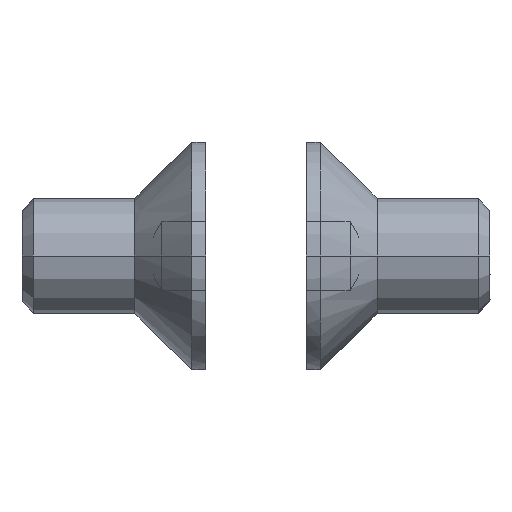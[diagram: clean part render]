
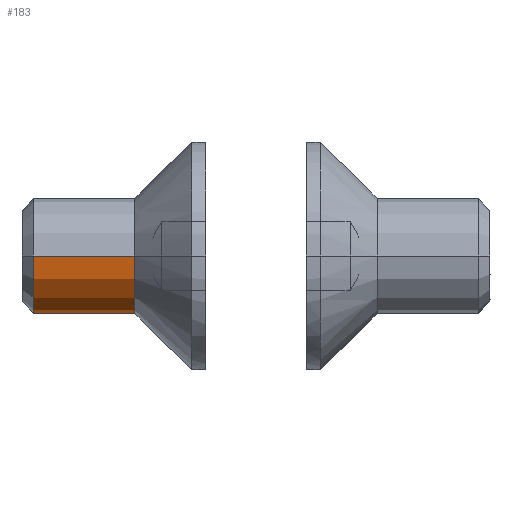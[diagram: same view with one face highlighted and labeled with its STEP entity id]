
A CAD part, left-side view. The second image highlights one B-rep face of the part: STEP entity #183.
In plain terms, the highlighted free-form (B-spline) face has degree [2, 1] with [9, 2] control points.
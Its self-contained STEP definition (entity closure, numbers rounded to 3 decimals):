
#183=ADVANCED_FACE('',(#351),#4985,.T.);
#351=FACE_OUTER_BOUND('',#521,.T.);
#521=EDGE_LOOP('',(#860,#861,#862,#863));
#860=ORIENTED_EDGE('',*,*,#3513,.T.);
#861=ORIENTED_EDGE('',*,*,#3514,.T.);
#862=ORIENTED_EDGE('',*,*,#3515,.T.);
#863=ORIENTED_EDGE('',*,*,#3511,.F.);
#1434=(
BOUNDED_CURVE()
B_SPLINE_CURVE(2,(#6743,#6744,#6745,#6746,#6747),.UNSPECIFIED.,.F.,.F.)
B_SPLINE_CURVE_WITH_KNOTS((3,2,3),(0.,3.927,7.854),
 .UNSPECIFIED.)
CURVE()
GEOMETRIC_REPRESENTATION_ITEM()
RATIONAL_B_SPLINE_CURVE((1.,0.707,1.,0.707,1.))
REPRESENTATION_ITEM('')
);
#1435=(
BOUNDED_CURVE()
B_SPLINE_CURVE(2,(#6760,#6761,#6762,#6763,#6764),.UNSPECIFIED.,.F.,.F.)
B_SPLINE_CURVE_WITH_KNOTS((3,2,3),(0.,3.927,7.854),
 .UNSPECIFIED.)
CURVE()
GEOMETRIC_REPRESENTATION_ITEM()
RATIONAL_B_SPLINE_CURVE((1.,0.707,1.,0.707,1.))
REPRESENTATION_ITEM('')
);
#1795=PCURVE('',#4984,#2523);
#1798=PCURVE('',#4985,#2526);
#1799=PCURVE('',#4985,#2527);
#1800=PCURVE('',#4985,#2528);
#1801=PCURVE('',#4985,#2529);
#1805=PCURVE('',#4986,#2533);
#1874=PCURVE('',#4990,#2602);
#1876=PCURVE('',#4990,#2604);
#2523=DEFINITIONAL_REPRESENTATION('',(#4026),#9474);
#2526=DEFINITIONAL_REPRESENTATION('',(#4031),#9474);
#2527=DEFINITIONAL_REPRESENTATION('',(#4032),#9474);
#2528=DEFINITIONAL_REPRESENTATION('',(#4034),#9474);
#2529=DEFINITIONAL_REPRESENTATION('',(#4035),#9474);
#2533=DEFINITIONAL_REPRESENTATION('',(#4041),#9474);
#2602=DEFINITIONAL_REPRESENTATION('',(#4126),#9474);
#2604=DEFINITIONAL_REPRESENTATION('',(#4128),#9474);
#3147=SURFACE_CURVE('',#1434,(#1795,#1801),.PCURVE_S1.);
#3149=SURFACE_CURVE('',#4030,(#1798,#1874),.PCURVE_S1.);
#3150=SURFACE_CURVE('',#1435,(#1799,#1805),.PCURVE_S1.);
#3151=SURFACE_CURVE('',#4033,(#1800,#1876),.PCURVE_S1.);
#3511=EDGE_CURVE('',#4714,#4715,#3147,.T.);
#3513=EDGE_CURVE('',#4714,#4716,#3149,.T.);
#3514=EDGE_CURVE('',#4716,#4717,#3150,.T.);
#3515=EDGE_CURVE('',#4717,#4715,#3151,.T.);
#4026=B_SPLINE_CURVE_WITH_KNOTS('',1,(#6748,#6749),.UNSPECIFIED.,.F.,.F.,
(2,2),(0.,7.854),.UNSPECIFIED.);
#4030=B_SPLINE_CURVE_WITH_KNOTS('',1,(#6756,#6757),.UNSPECIFIED.,.F.,.F.,
(2,2),(-4.41,0.),.UNSPECIFIED.);
#4031=B_SPLINE_CURVE_WITH_KNOTS('',1,(#6758,#6759),.UNSPECIFIED.,.F.,.F.,
(2,2),(-4.41,0.),.UNSPECIFIED.);
#4032=B_SPLINE_CURVE_WITH_KNOTS('',1,(#6765,#6766),.UNSPECIFIED.,.F.,.F.,
(2,2),(0.,7.854),.UNSPECIFIED.);
#4033=B_SPLINE_CURVE_WITH_KNOTS('',1,(#6767,#6768),.UNSPECIFIED.,.F.,.F.,
(2,2),(-4.41,0.),.UNSPECIFIED.);
#4034=B_SPLINE_CURVE_WITH_KNOTS('',1,(#6769,#6770),.UNSPECIFIED.,.F.,.F.,
(2,2),(-4.41,0.),.UNSPECIFIED.);
#4035=B_SPLINE_CURVE_WITH_KNOTS('',1,(#6771,#6772),.UNSPECIFIED.,.F.,.F.,
(2,2),(0.,7.854),.UNSPECIFIED.);
#4041=B_SPLINE_CURVE_WITH_KNOTS('',1,(#6788,#6789),.UNSPECIFIED.,.F.,.F.,
(2,2),(0.,7.854),.UNSPECIFIED.);
#4126=B_SPLINE_CURVE_WITH_KNOTS('',1,(#7026,#7027),.UNSPECIFIED.,.F.,.F.,
(2,2),(-4.41,0.),.UNSPECIFIED.);
#4128=B_SPLINE_CURVE_WITH_KNOTS('',1,(#7035,#7036),.UNSPECIFIED.,.F.,.F.,
(2,2),(-4.41,0.),.UNSPECIFIED.);
#4714=VERTEX_POINT('',#6690);
#4715=VERTEX_POINT('',#6691);
#4716=VERTEX_POINT('',#6692);
#4717=VERTEX_POINT('',#6693);
#4984=(
BOUNDED_SURFACE()
B_SPLINE_SURFACE(2,1,((#6510,#6511),(#6512,#6513),(#6514,#6515),(#6516,#6517),
(#6518,#6519),(#6520,#6521),(#6522,#6523),(#6524,#6525),(#6526,#6527)),
 .UNSPECIFIED.,.T.,.F.,.F.)
B_SPLINE_SURFACE_WITH_KNOTS((3,2,2,2,3),(2,2),(0.,1.571,3.142,
4.712,6.283),(0.,7.78),.UNSPECIFIED.)
GEOMETRIC_REPRESENTATION_ITEM()
RATIONAL_B_SPLINE_SURFACE(((1.,1.),(0.707,0.707),
(1.,1.),(0.707,0.707),(1.,1.),(0.707,
0.707),(1.,1.),(0.707,0.707),(1.,1.)))
REPRESENTATION_ITEM('')
SURFACE()
);
#4985=(
BOUNDED_SURFACE()
B_SPLINE_SURFACE(2,1,((#6528,#6529),(#6530,#6531),(#6532,#6533),(#6534,#6535),
(#6536,#6537),(#6538,#6539),(#6540,#6541),(#6542,#6543),(#6544,#6545)),
 .UNSPECIFIED.,.T.,.F.,.F.)
B_SPLINE_SURFACE_WITH_KNOTS((3,2,2,2,3),(2,2),(0.,1.571,3.142,
4.712,6.283),(0.,5.294),.UNSPECIFIED.)
GEOMETRIC_REPRESENTATION_ITEM()
RATIONAL_B_SPLINE_SURFACE(((1.,1.),(0.707,0.707),
(1.,1.),(0.707,0.707),(1.,1.),(0.707,
0.707),(1.,1.),(0.707,0.707),(1.,1.)))
REPRESENTATION_ITEM('')
SURFACE()
);
#4986=(
BOUNDED_SURFACE()
B_SPLINE_SURFACE(2,1,((#6546,#6547),(#6548,#6549),(#6550,#6551),(#6552,#6553),
(#6554,#6555),(#6556,#6557),(#6558,#6559),(#6560,#6561),(#6562,#6563)),
 .UNSPECIFIED.,.T.,.F.,.F.)
B_SPLINE_SURFACE_WITH_KNOTS((3,2,2,2,3),(2,2),(0.,1.571,3.142,
4.712,6.283),(0.,3.891),.UNSPECIFIED.)
GEOMETRIC_REPRESENTATION_ITEM()
RATIONAL_B_SPLINE_SURFACE(((1.,1.),(0.707,0.707),
(1.,1.),(0.707,0.707),(1.,1.),(0.707,
0.707),(1.,1.),(0.707,0.707),(1.,1.)))
REPRESENTATION_ITEM('')
SURFACE()
);
#4990=(
BOUNDED_SURFACE()
B_SPLINE_SURFACE(2,1,((#6631,#6632),(#6633,#6634),(#6635,#6636),(#6637,#6638),
(#6639,#6640),(#6641,#6642),(#6643,#6644),(#6645,#6646),(#6647,#6648)),
 .UNSPECIFIED.,.T.,.F.,.F.)
B_SPLINE_SURFACE_WITH_KNOTS((3,2,2,2,3),(2,2),(0.,1.571,3.142,
4.712,6.283),(0.,5.294),.UNSPECIFIED.)
GEOMETRIC_REPRESENTATION_ITEM()
RATIONAL_B_SPLINE_SURFACE(((1.,1.),(0.707,0.707),
(1.,1.),(0.707,0.707),(1.,1.),(0.707,
0.707),(1.,1.),(0.707,0.707),(1.,1.)))
REPRESENTATION_ITEM('')
SURFACE()
);
#6510=CARTESIAN_POINT('',(5.6,0.,0.));
#6511=CARTESIAN_POINT('',(0.099,0.,5.501));
#6512=CARTESIAN_POINT('',(5.6,0.,0.));
#6513=CARTESIAN_POINT('',(0.099,5.501,5.501));
#6514=CARTESIAN_POINT('',(5.6,0.,0.));
#6515=CARTESIAN_POINT('',(0.099,5.501,0.));
#6516=CARTESIAN_POINT('',(5.6,0.,0.));
#6517=CARTESIAN_POINT('',(0.099,5.501,-5.501));
#6518=CARTESIAN_POINT('',(5.6,0.,0.));
#6519=CARTESIAN_POINT('',(0.099,0.,-5.501));
#6520=CARTESIAN_POINT('',(5.6,0.,0.));
#6521=CARTESIAN_POINT('',(0.099,-5.501,-5.501));
#6522=CARTESIAN_POINT('',(5.6,0.,0.));
#6523=CARTESIAN_POINT('',(0.099,-5.501,0.));
#6524=CARTESIAN_POINT('',(5.6,0.,0.));
#6525=CARTESIAN_POINT('',(0.099,-5.501,5.501));
#6526=CARTESIAN_POINT('',(5.6,0.,0.));
#6527=CARTESIAN_POINT('',(0.099,0.,5.501));
#6528=CARTESIAN_POINT('',(2.658,0.,2.5));
#6529=CARTESIAN_POINT('',(7.952,0.,2.5));
#6530=CARTESIAN_POINT('',(2.658,-2.5,2.5));
#6531=CARTESIAN_POINT('',(7.952,-2.5,2.5));
#6532=CARTESIAN_POINT('',(2.658,-2.5,0.));
#6533=CARTESIAN_POINT('',(7.952,-2.5,0.));
#6534=CARTESIAN_POINT('',(2.658,-2.5,-2.5));
#6535=CARTESIAN_POINT('',(7.952,-2.5,-2.5));
#6536=CARTESIAN_POINT('',(2.658,0.,-2.5));
#6537=CARTESIAN_POINT('',(7.952,0.,-2.5));
#6538=CARTESIAN_POINT('',(2.658,2.5,-2.5));
#6539=CARTESIAN_POINT('',(7.952,2.5,-2.5));
#6540=CARTESIAN_POINT('',(2.658,2.5,0.));
#6541=CARTESIAN_POINT('',(7.952,2.5,0.));
#6542=CARTESIAN_POINT('',(2.658,2.5,2.5));
#6543=CARTESIAN_POINT('',(7.952,2.5,2.5));
#6544=CARTESIAN_POINT('',(2.658,0.,2.5));
#6545=CARTESIAN_POINT('',(7.952,0.,2.5));
#6546=CARTESIAN_POINT('',(10.01,0.,0.));
#6547=CARTESIAN_POINT('',(7.258,0.,2.751));
#6548=CARTESIAN_POINT('',(10.01,0.,0.));
#6549=CARTESIAN_POINT('',(7.258,2.751,2.751));
#6550=CARTESIAN_POINT('',(10.01,0.,0.));
#6551=CARTESIAN_POINT('',(7.258,2.751,0.));
#6552=CARTESIAN_POINT('',(10.01,0.,0.));
#6553=CARTESIAN_POINT('',(7.258,2.751,-2.751));
#6554=CARTESIAN_POINT('',(10.01,0.,0.));
#6555=CARTESIAN_POINT('',(7.258,0.,-2.751));
#6556=CARTESIAN_POINT('',(10.01,0.,0.));
#6557=CARTESIAN_POINT('',(7.258,-2.751,-2.751));
#6558=CARTESIAN_POINT('',(10.01,0.,0.));
#6559=CARTESIAN_POINT('',(7.258,-2.751,0.));
#6560=CARTESIAN_POINT('',(10.01,0.,0.));
#6561=CARTESIAN_POINT('',(7.258,-2.751,2.751));
#6562=CARTESIAN_POINT('',(10.01,0.,0.));
#6563=CARTESIAN_POINT('',(7.258,0.,2.751));
#6631=CARTESIAN_POINT('',(2.658,0.,-2.5));
#6632=CARTESIAN_POINT('',(7.952,0.,-2.5));
#6633=CARTESIAN_POINT('',(2.658,2.5,-2.5));
#6634=CARTESIAN_POINT('',(7.952,2.5,-2.5));
#6635=CARTESIAN_POINT('',(2.658,2.5,0.));
#6636=CARTESIAN_POINT('',(7.952,2.5,0.));
#6637=CARTESIAN_POINT('',(2.658,2.5,2.5));
#6638=CARTESIAN_POINT('',(7.952,2.5,2.5));
#6639=CARTESIAN_POINT('',(2.658,0.,2.5));
#6640=CARTESIAN_POINT('',(7.952,0.,2.5));
#6641=CARTESIAN_POINT('',(2.658,-2.5,2.5));
#6642=CARTESIAN_POINT('',(7.952,-2.5,2.5));
#6643=CARTESIAN_POINT('',(2.658,-2.5,0.));
#6644=CARTESIAN_POINT('',(7.952,-2.5,0.));
#6645=CARTESIAN_POINT('',(2.658,-2.5,-2.5));
#6646=CARTESIAN_POINT('',(7.952,-2.5,-2.5));
#6647=CARTESIAN_POINT('',(2.658,0.,-2.5));
#6648=CARTESIAN_POINT('',(7.952,0.,-2.5));
#6690=CARTESIAN_POINT('',(3.1,2.5,0.));
#6691=CARTESIAN_POINT('',(3.1,-2.5,0.));
#6692=CARTESIAN_POINT('',(7.51,2.5,0.));
#6693=CARTESIAN_POINT('',(7.51,-2.5,0.));
#6743=CARTESIAN_POINT('',(3.1,2.5,0.));
#6744=CARTESIAN_POINT('',(3.1,2.5,-2.5));
#6745=CARTESIAN_POINT('',(3.1,0.,-2.5));
#6746=CARTESIAN_POINT('',(3.1,-2.5,-2.5));
#6747=CARTESIAN_POINT('',(3.1,-2.5,0.));
#6748=CARTESIAN_POINT('',(1.571,3.536));
#6749=CARTESIAN_POINT('',(4.712,3.536));
#6756=CARTESIAN_POINT('',(3.1,2.5,0.));
#6757=CARTESIAN_POINT('',(7.51,2.5,0.));
#6758=CARTESIAN_POINT('',(4.712,0.442));
#6759=CARTESIAN_POINT('',(4.712,4.852));
#6760=CARTESIAN_POINT('',(7.51,2.5,0.));
#6761=CARTESIAN_POINT('',(7.51,2.5,-2.5));
#6762=CARTESIAN_POINT('',(7.51,0.,-2.5));
#6763=CARTESIAN_POINT('',(7.51,-2.5,-2.5));
#6764=CARTESIAN_POINT('',(7.51,-2.5,0.));
#6765=CARTESIAN_POINT('',(4.712,4.852));
#6766=CARTESIAN_POINT('',(1.571,4.852));
#6767=CARTESIAN_POINT('',(7.51,-2.5,0.));
#6768=CARTESIAN_POINT('',(3.1,-2.5,0.));
#6769=CARTESIAN_POINT('',(1.571,4.852));
#6770=CARTESIAN_POINT('',(1.571,0.442));
#6771=CARTESIAN_POINT('',(4.712,0.442));
#6772=CARTESIAN_POINT('',(1.571,0.442));
#6788=CARTESIAN_POINT('',(1.571,3.536));
#6789=CARTESIAN_POINT('',(4.712,3.536));
#7026=CARTESIAN_POINT('',(1.571,0.442));
#7027=CARTESIAN_POINT('',(1.571,4.852));
#7035=CARTESIAN_POINT('',(4.712,4.852));
#7036=CARTESIAN_POINT('',(4.712,0.442));
#9474=(
GEOMETRIC_REPRESENTATION_CONTEXT(2)
PARAMETRIC_REPRESENTATION_CONTEXT()
REPRESENTATION_CONTEXT('pspace','')
);
